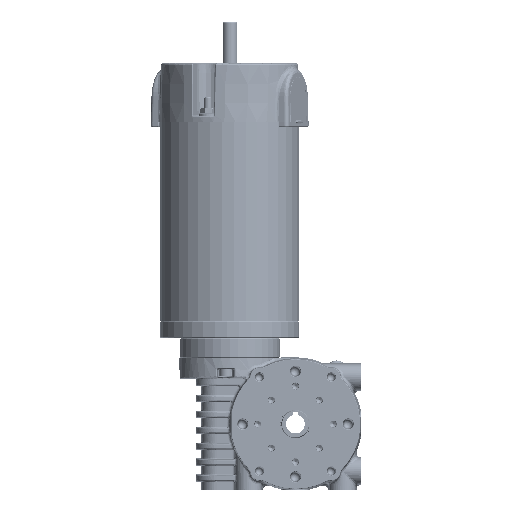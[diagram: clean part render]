
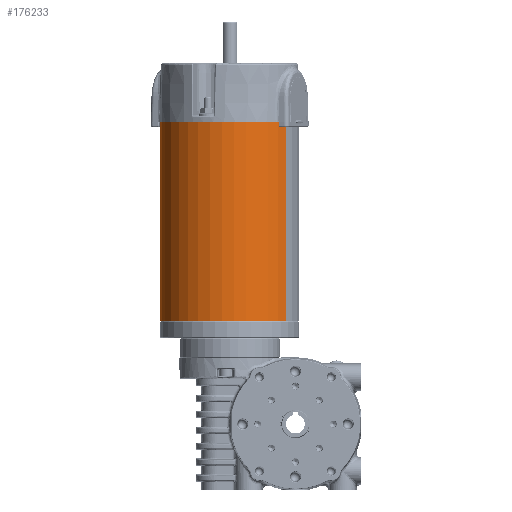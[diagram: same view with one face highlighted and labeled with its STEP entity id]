
A CAD part, left-side view. The second image highlights one B-rep face of the part: STEP entity #176233.
In plain terms, the highlighted cylindrical face has radius 37.15 mm (diameter 74.3 mm), a partial arc.
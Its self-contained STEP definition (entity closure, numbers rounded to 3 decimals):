
#2053 = DIRECTION ( 'NONE',  ( -0.597, -0.802, 0. ) ) ;
#7862 = LINE ( 'NONE', #25406, #10263 ) ;
#10263 = VECTOR ( 'NONE', #227125, 1000. ) ;
#12544 = CARTESIAN_POINT ( 'NONE',  ( -16.926, -15.079, 50.358 ) ) ;
#14710 = ORIENTED_EDGE ( 'NONE', *, *, #173378, .T. ) ;
#16665 = CARTESIAN_POINT ( 'NONE',  ( 5.264, 14.716, 50.358 ) ) ;
#17336 = DIRECTION ( 'NONE',  ( 0., 0., 1. ) ) ;
#22138 = ORIENTED_EDGE ( 'NONE', *, *, #177633, .F. ) ;
#25406 = CARTESIAN_POINT ( 'NONE',  ( 27.455, 44.51, 50.358 ) ) ;
#28521 = CIRCLE ( 'NONE', #88360, 37.15 ) ;
#50687 = CARTESIAN_POINT ( 'NONE',  ( 5.264, 14.716, 156.358 ) ) ;
#57418 = CARTESIAN_POINT ( 'NONE',  ( -16.926, -15.079, 156.358 ) ) ;
#70704 = DIRECTION ( 'NONE',  ( 0., 0., 1. ) ) ;
#82858 = EDGE_CURVE ( 'NONE', #211559, #97875, #7862, .T. ) ;
#85776 = DIRECTION ( 'NONE',  ( 0.597, 0.802, 0. ) ) ;
#86944 = DIRECTION ( 'NONE',  ( 0.597, 0.802, 0. ) ) ;
#88360 = AXIS2_PLACEMENT_3D ( 'NONE', #50687, #176109, #86944 ) ;
#91042 = FACE_OUTER_BOUND ( 'NONE', #163807, .T. ) ;
#91397 = AXIS2_PLACEMENT_3D ( 'NONE', #215588, #17336, #2053 ) ;
#97875 = VERTEX_POINT ( 'NONE', #189276 ) ;
#106937 = LINE ( 'NONE', #179725, #221319 ) ;
#142942 = VERTEX_POINT ( 'NONE', #57418 ) ;
#163807 = EDGE_LOOP ( 'NONE', ( #179923, #22138, #14710, #211895 ) ) ;
#173378 = EDGE_CURVE ( 'NONE', #229201, #142942, #106937, .T. ) ;
#176109 = DIRECTION ( 'NONE',  ( 0., 0., -1. ) ) ;
#176233 = ADVANCED_FACE ( 'NONE', ( #91042 ), #200247, .T. ) ;
#177633 = EDGE_CURVE ( 'NONE', #229201, #211559, #193301, .T. ) ;
#177655 = EDGE_CURVE ( 'NONE', #142942, #97875, #28521, .T. ) ;
#179725 = CARTESIAN_POINT ( 'NONE',  ( -16.926, -15.079, 50.358 ) ) ;
#179923 = ORIENTED_EDGE ( 'NONE', *, *, #82858, .F. ) ;
#189276 = CARTESIAN_POINT ( 'NONE',  ( 27.455, 44.51, 156.358 ) ) ;
#192649 = DIRECTION ( 'NONE',  ( 0., 0., -1. ) ) ;
#193301 = CIRCLE ( 'NONE', #208367, 37.15 ) ;
#198800 = CARTESIAN_POINT ( 'NONE',  ( 27.455, 44.51, 50.358 ) ) ;
#200247 = CYLINDRICAL_SURFACE ( 'NONE', #91397, 37.15 ) ;
#208367 = AXIS2_PLACEMENT_3D ( 'NONE', #16665, #192649, #85776 ) ;
#211559 = VERTEX_POINT ( 'NONE', #198800 ) ;
#211895 = ORIENTED_EDGE ( 'NONE', *, *, #177655, .T. ) ;
#215588 = CARTESIAN_POINT ( 'NONE',  ( 5.264, 14.716, 50.358 ) ) ;
#221319 = VECTOR ( 'NONE', #70704, 1000. ) ;
#227125 = DIRECTION ( 'NONE',  ( 0., 0., 1. ) ) ;
#229201 = VERTEX_POINT ( 'NONE', #12544 ) ;
